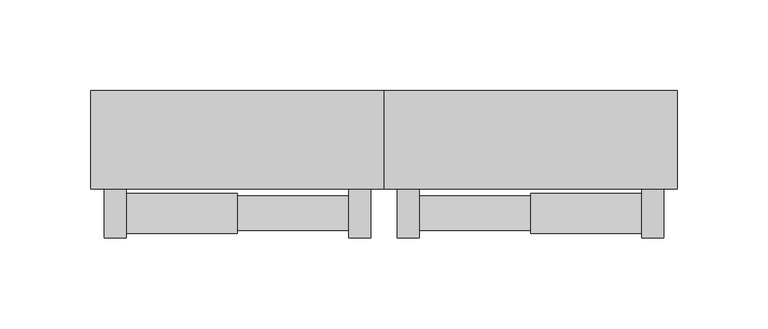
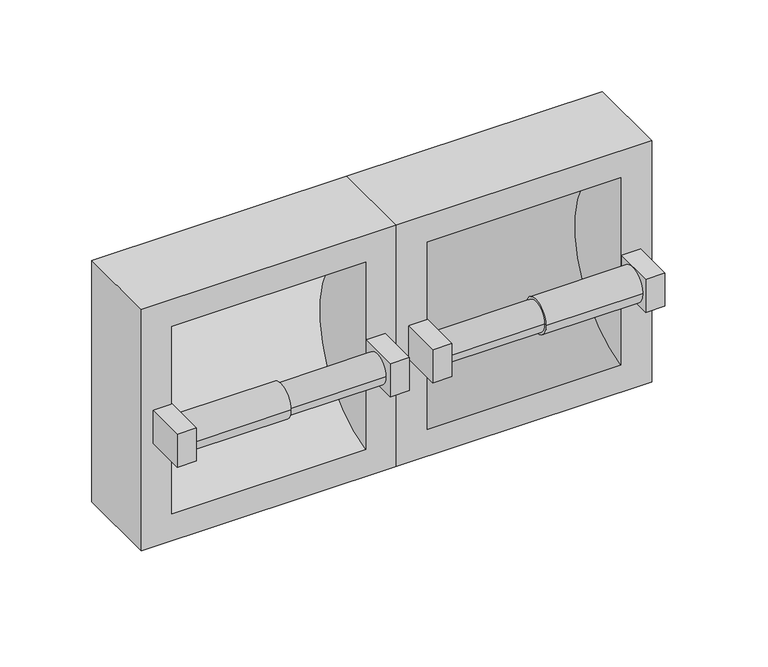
"""IFC4 building model written with IfcOpenShell, lengths in millimetres: proxy geometry, Toilet Roll Dispenser_Metlam_Double_Surface Mounted : 322w x 83d x 161h (ML262SM_S)."""

import ifcopenshell
import ifcopenshell.guid

model = None  # the IFC model being written
_history = None  # IfcOwnerHistory: only IFC2X3 demands one
_inside = {}  # id of a spatial element -> (the spatial element, [elements in it])
_under = {}  # id of a project, library or spatial element -> (it, [spatial elements below it])
_declared = {}  # id of a project -> (the project, [libraries it declares])
_typed = {}  # id of a type object -> (the type object, [elements of that type])
_made_of = {}  # id of a material, layer set ... -> (it, [elements and type objects made of it])


def new_model(schema):
    """Start an empty IFC model of exactly this schema.

    Asked for "IFC4X3", IfcOpenShell would pick the latest addendum, in which some entities
    have other attributes; the version numbers below select the first issue.
    IFC2X3 requires an IfcOwnerHistory on every rooted entity: one is made here for all.
    """
    global model, _history
    if schema == "IFC4X3":
        model = ifcopenshell.file(schema_version=(4, 3, 0, 0))
    else:
        model = ifcopenshell.file(schema=schema)
    _inside.clear()
    _under.clear()
    _declared.clear()
    _typed.clear()
    _made_of.clear()
    _history = None
    if model.schema == "IFC2X3":
        org = make("IfcOrganization", Name="unknown")
        user = make(
            "IfcPersonAndOrganization",
            ThePerson=make("IfcPerson", FamilyName="unknown"),
            TheOrganization=org,
        )
        app = make(
            "IfcApplication",
            ApplicationDeveloper=org,
            Version="unknown",
            ApplicationFullName="unknown",
            ApplicationIdentifier="unknown",
        )
        _history = make(
            "IfcOwnerHistory",
            OwningUser=user,
            OwningApplication=app,
            ChangeAction="ADDED",
            CreationDate=0,
        )
    return model


def make(cls, **values):
    """One entity of the class cls with the attributes given. An attribute that is None is left unset."""
    return model.create_entity(
        cls, **{name: value for name, value in values.items() if value is not None}
    )


def rooted(cls, **values):
    """An entity with a GlobalId (a new one), such as an element, a storey or a relation."""
    return make(cls, GlobalId=ifcopenshell.guid.new(), OwnerHistory=_history, **values)


def si_unit(unit_type, name, prefix=None):
    """IfcSIUnit, for example si_unit("LENGTHUNIT", "METRE", prefix="MILLI")."""
    return make("IfcSIUnit", UnitType=unit_type, Prefix=prefix, Name=name)


def assignment(units):
    """IfcUnitAssignment: the units of a project."""
    return None if units is None else make("IfcUnitAssignment", Units=units)


def point(xyz):
    """IfcCartesianPoint."""
    return None if xyz is None else make("IfcCartesianPoint", Coordinates=xyz)


def direction(xyz):
    """IfcDirection."""
    return None if xyz is None else make("IfcDirection", DirectionRatios=xyz)


def frame(location, z_axis=None, x_axis=None):
    """IfcAxis2Placement3D, a coordinate frame: its origin and axes. An axis left out is left unset."""
    return make(
        "IfcAxis2Placement3D",
        Location=point(location),
        Axis=direction(z_axis),
        RefDirection=direction(x_axis),
    )


def origin():
    """The frame at (0, 0, 0) with its axes left unset."""
    return frame((0.0, 0.0, 0.0))


def place(relative_to, where):
    """IfcLocalPlacement: puts the frame where relative to a parent placement (None: the world)."""
    return make(
        "IfcLocalPlacement", PlacementRelTo=relative_to, RelativePlacement=where
    )


def context(
    kind, dimensions, precision=None, world=None, true_north=None, identifier=None
):
    """IfcGeometricRepresentationContext, for example the 3D "Model" context."""
    return make(
        "IfcGeometricRepresentationContext",
        ContextIdentifier=identifier,
        ContextType=kind,
        CoordinateSpaceDimension=dimensions,
        Precision=precision,
        WorldCoordinateSystem=world,
        TrueNorth=true_north,
    )


def project(units=None, contexts=None):
    """IfcProject with its units and contexts."""
    return rooted(
        "IfcProject",
        Name="project",
        RepresentationContexts=contexts,
        UnitsInContext=assignment(units),
    )


def spatial(cls, under=None, at=None, **own):
    """A site, building, storey or space (cls), placed at a placement, below another one or the project."""
    s = rooted(cls, ObjectPlacement=at, **own)
    if under is not None:
        _under.setdefault(under.id(), (under, []))[1].append(s)
    return s


def polyline(points):
    """IfcPolyline through the points."""
    return make("IfcPolyline", Points=[point(p) for p in points])


def circle_curve(where, radius):
    """IfcCircle in the frame where."""
    return make("IfcCircle", Position=where, Radius=radius)


def outline(outer, holes=None, kind="AREA"):
    """IfcArbitraryClosedProfileDef: a profile drawn as a closed curve; with holes, ...WithVoids."""
    if holes is None:
        return make("IfcArbitraryClosedProfileDef", ProfileType=kind, OuterCurve=outer)
    return make(
        "IfcArbitraryProfileDefWithVoids",
        ProfileType=kind,
        OuterCurve=outer,
        InnerCurves=holes,
    )


def extrude(swept, where, along, depth):
    """IfcExtrudedAreaSolid: the profile swept, set in the frame where, extruded along a direction by depth."""
    return make(
        "IfcExtrudedAreaSolid",
        SweptArea=swept,
        Position=where,
        ExtrudedDirection=direction(along),
        Depth=depth,
    )


def shape(context_of_items, identifier, shape_type, items):
    """IfcShapeRepresentation: the items that make up one representation, for example the "Body"."""
    return make(
        "IfcShapeRepresentation",
        ContextOfItems=context_of_items,
        RepresentationIdentifier=identifier,
        RepresentationType=shape_type,
        Items=items,
    )


def source(mapping_origin, context_of_items, identifier, shape_type, items):
    """IfcRepresentationMap: a shape defined once, which mapped items show again and again."""
    return make(
        "IfcRepresentationMap",
        MappingOrigin=mapping_origin,
        MappedRepresentation=shape(context_of_items, identifier, shape_type, items),
    )


def transform(
    local_origin,
    x_axis=None,
    y_axis=None,
    z_axis=None,
    scale=None,
    scale2=None,
    scale3=None,
    uniform=True,
):
    """IfcCartesianTransformationOperator3D, or its non-uniform kind. x_axis, y_axis, z_axis: its Axis1, 2, 3."""
    if uniform:
        return make(
            "IfcCartesianTransformationOperator3D",
            Axis1=direction(x_axis),
            Axis2=direction(y_axis),
            LocalOrigin=point(local_origin),
            Scale=scale,
            Axis3=direction(z_axis),
        )
    return make(
        "IfcCartesianTransformationOperator3DnonUniform",
        Axis1=direction(x_axis),
        Axis2=direction(y_axis),
        LocalOrigin=point(local_origin),
        Scale=scale,
        Axis3=direction(z_axis),
        Scale2=scale2,
        Scale3=scale3,
    )


def mapped(mapping_source, mapping_target):
    """IfcMappedItem: shows the shape of a source again, moved by a transform."""
    return make(
        "IfcMappedItem", MappingSource=mapping_source, MappingTarget=mapping_target
    )


def made_of(thing, what):
    """Note that an element or type object is made of a material, layer set ...; save() writes the relation."""
    if what is not None:
        _made_of.setdefault(what.id(), (what, []))[1].append(thing)
    return thing


def element(
    cls,
    number,
    at=None,
    inside=None,
    cuts=None,
    type_object=None,
    material=None,
    context=None,
    identifier="Body",
    shape_type=None,
    held_by="IfcProductDefinitionShape",
    body=None,
    shapes=None,
    **own,
):
    """One element of the class cls, such as IfcWall. Its Tag is "e" and its number.

    at: its placement. inside: the storey or other place that contains it. cuts: it is an
    opening in that element (IfcRelVoidsElement). A single representation is given by context,
    identifier, shape_type and body (its items); several are given by shapes. held_by: the class
    of the entity that holds the representations. save() writes the other relations.
    """
    e = rooted(cls, Tag="e%d" % number, ObjectPlacement=at, **own)
    if body is not None:
        shapes = [shape(context, identifier, shape_type, body)]
    if shapes is not None:
        e.Representation = make(held_by, Representations=shapes)
    if inside is not None:
        _inside.setdefault(inside.id(), (inside, []))[1].append(e)
    if cuts is not None:
        rooted(
            "IfcRelVoidsElement", RelatingBuildingElement=cuts, RelatedOpeningElement=e
        )
    if type_object is not None:
        _typed.setdefault(type_object.id(), (type_object, []))[1].append(e)
    return made_of(e, material)


def aggregate(whole, parts):
    """IfcRelAggregates: a whole, such as a stair, and the parts it consists of."""
    return rooted("IfcRelAggregates", RelatingObject=whole, RelatedObjects=parts)


def save(model, path):
    """Write the relations noted so far, then the file.

    IfcRelAggregates (storeys below a building ...), IfcRelContainedInSpatialStructure (elements
    in a storey), IfcRelDefinesByType, IfcRelAssociatesMaterial and IfcRelDeclares: one each for
    every whole, place, type object, material and project.
    """
    for whole, parts in _under.values():
        aggregate(whole, parts)
    for where, things in _inside.values():
        rooted(
            "IfcRelContainedInSpatialStructure",
            RelatedElements=things,
            RelatingStructure=where,
        )
    for kind, things in _typed.values():
        rooted("IfcRelDefinesByType", RelatedObjects=things, RelatingType=kind)
    for what, things in _made_of.values():
        rooted("IfcRelAssociatesMaterial", RelatedObjects=things, RelatingMaterial=what)
    for by, libraries in _declared.values():
        rooted("IfcRelDeclares", RelatingContext=by, RelatedDefinitions=libraries)
    model.write(path)


def plane_surface(at):
    """IfcPlane: the flat surface through the origin of the frame at, square to its z axis."""
    return make("IfcPlane", Position=at)


def cylinder_surface(at, radius):
    """IfcCylindricalSurface: all points at the distance radius from the z axis of the frame at."""
    return make("IfcCylindricalSurface", Position=at, Radius=radius)


def revolved_surface(curve, axis_point, axis_direction):
    """IfcSurfaceOfRevolution: the curve turned about the line through axis_point along axis_direction."""
    return make(
        "IfcSurfaceOfRevolution",
        SweptCurve=make("IfcArbitraryOpenProfileDef", ProfileType="CURVE", Curve=curve),
        AxisPosition=make("IfcAxis1Placement", Location=point(axis_point), Axis=direction(axis_direction)),
    )


def advanced_brep(points, edges, surfaces, faces):
    """IfcAdvancedBrep: a solid bounded by faces that lie on surfaces and meet in shared edges.

    An edge is (start, end): straight between two places in points (the first is 0);
    or (start, end, curve); or (start, end, curve, False) where it runs against its curve.
    A face is (place in surfaces, loops), or (place, loops, False) where it looks against
    its surface's normal. A loop lists edges by number (the first is 1), with a minus sign
    where the edge is run from its end to its start. The first loop is the outer one.
    """
    corners = [point(p) for p in points]
    vertices = [make("IfcVertexPoint", VertexGeometry=c) for c in corners]
    made = []
    for start, end, *more in edges:
        made.append(
            make(
                "IfcEdgeCurve",
                EdgeStart=vertices[start],
                EdgeEnd=vertices[end],
                EdgeGeometry=more[0] if more else make("IfcPolyline", Points=[corners[start], corners[end]]),
                SameSense=more[1] if len(more) > 1 else True,
            )
        )
    hull = []
    for where, loops, *sense in faces:
        bounds = []
        for j, loop in enumerate(loops):
            ring = [make("IfcOrientedEdge", EdgeElement=made[abs(k) - 1], Orientation=k > 0) for k in loop]
            bounds.append(
                make(
                    "IfcFaceOuterBound" if j == 0 else "IfcFaceBound",
                    Bound=make("IfcEdgeLoop", EdgeList=ring),
                    Orientation=True,
                )
            )
        hull.append(make("IfcAdvancedFace", Bounds=bounds, FaceSurface=surfaces[where], SameSense=sense[0] if sense else True))
    return make("IfcAdvancedBrep", Outer=make("IfcClosedShell", CfsFaces=hull))


def specialty_equipment_26288f8f(model_context):
    return source(origin(), model_context, "Body", "SolidModel", [
        advanced_brep(
        [(0.0, -54.0, 665.5), (0.0, -54.0, 504.5), (161.0, -54.0, 504.5), (161.0, -54.0, 665.5), (19.3853536, -54.0, 522.5175691), (19.3853536, -54.0, 647.4824309), (141.6146464, -54.0, 647.4824309), (141.6146464, -54.0, 522.5175691), (0.0, 0.0, 665.5), (161.0, 0.0, 665.5), (161.0, 0.0, 504.5), (0.0, 0.0, 504.5)],
        [
            (0, 1),
            (1, 2),
            (2, 3),
            (3, 0),
            (4, 5),
            (5, 6),
            (6, 7),
            (7, 4),
            (8, 9),
            (9, 10),
            (10, 11),
            (11, 8),
            (3, 9),
            (8, 0),
            (2, 10),
            (1, 11),
            (4, 5, circle_curve(frame((19.3853536, -67.8544514, 585.0), z_axis=(1.0, 0.0, 0.0), x_axis=(0.0, 1.0, 0.0)), 64.0)),
            (6, 7, circle_curve(frame((141.6146464, -67.8544514, 585.0), z_axis=(-1.0, 0.0, 0.0), x_axis=(0.0, 1.0, 0.0)), 64.0)),
        ],
        [
            plane_surface(frame((0.0, -54.0, 665.5), z_axis=(0.0, -1.0, 0.0), x_axis=(0.0, 0.0, -1.0))),
            plane_surface(frame((0.0, 0.0, 665.5), z_axis=(0.0, 1.0, 0.0), x_axis=(0.0, 0.0, 1.0))),
            plane_surface(frame((161.0, -54.0, 665.5), z_axis=(0.0, 0.0, 1.0), x_axis=(0.0, 1.0, 0.0))),
            plane_surface(frame((161.0, -54.0, 504.5), z_axis=(1.0, 0.0, 0.0), x_axis=(0.0, 1.0, 0.0))),
            plane_surface(frame((0.0, -54.0, 504.5), z_axis=(0.0, 0.0, -1.0), x_axis=(0.0, 1.0, 0.0))),
            plane_surface(frame((0.0, -54.0, 665.5), z_axis=(-1.0, 0.0, 0.0), x_axis=(0.0, 1.0, 0.0))),
            plane_surface(frame((19.3853536, -3.8544514, 585.0), z_axis=(1.0, 0.0, 0.0), x_axis=(0.0, 0.0, -1.0))),
            plane_surface(frame((141.6146464, -3.8544514, 585.0), z_axis=(-1.0, 0.0, 0.0), x_axis=(0.0, 0.0, 1.0))),
            revolved_surface(polyline([(19.385353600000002, -3.854451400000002, 585.0), (141.6146464, -3.854451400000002, 585.0)]), (141.6146464, -67.8544514, 585.0), (-1.0, 0.0, 0.0)),
        ],
        [
            (0, [[1, 2, 3, 4], [5, 6, 7, 8]]),
            (1, [[9, 10, 11, 12]]),
            (2, [[-4, 13, -9, 14]]),
            (3, [[-3, 15, -10, -13]]),
            (4, [[-2, 16, -11, -15]]),
            (5, [[-1, -14, -12, -16]]),
            (6, [[17, -5]]),
            (7, [[18, -7]]),
            (8, [[-17, -8, -18, -6]]),
        ],
    ),
        advanced_brep(
        [(0.0, -54.0, 665.5), (-161.0, -54.0, 665.5), (-161.0, -54.0, 504.5), (0.0, -54.0, 504.5), (-19.3853536, -54.0, 647.4824309), (-19.3853536, -54.0, 522.5175691), (-141.6146464, -54.0, 522.5175691), (-141.6146464, -54.0, 647.4824309), (0.0, 0.0, 665.5), (0.0, 0.0, 504.5), (-161.0, 0.0, 504.5), (-161.0, 0.0, 665.5)],
        [
            (0, 1),
            (1, 2),
            (2, 3),
            (3, 0),
            (4, 5),
            (5, 6),
            (6, 7),
            (7, 4),
            (8, 9),
            (9, 10),
            (10, 11),
            (11, 8),
            (0, 8),
            (11, 1),
            (10, 2),
            (9, 3),
            (4, 5, circle_curve(frame((-19.3853536, -67.8544514, 585.0), z_axis=(-1.0, 0.0, 0.0), x_axis=(0.0, 1.0, 0.0)), 64.0)),
            (6, 7, circle_curve(frame((-141.6146464, -67.8544514, 585.0), z_axis=(1.0, 0.0, 0.0), x_axis=(0.0, 1.0, 0.0)), 64.0)),
        ],
        [
            plane_surface(frame((-161.0, -54.0, 665.5), z_axis=(0.0, -1.0, 0.0), x_axis=(-1.0, 0.0, 0.0))),
            plane_surface(frame((-161.0, 0.0, 665.5), z_axis=(0.0, 1.0, 0.0), x_axis=(1.0, 0.0, 0.0))),
            plane_surface(frame((0.0, -54.0, 665.5), z_axis=(0.0, 0.0, 1.0), x_axis=(0.0, 1.0, 0.0))),
            plane_surface(frame((-161.0, -54.0, 665.5), z_axis=(-1.0, 0.0, 0.0), x_axis=(0.0, 1.0, 0.0))),
            plane_surface(frame((-161.0, -54.0, 504.5), z_axis=(0.0, 0.0, -1.0), x_axis=(0.0, 1.0, 0.0))),
            plane_surface(frame((0.0, -54.0, 504.5), z_axis=(1.0, 0.0, 0.0), x_axis=(0.0, 1.0, 0.0))),
            plane_surface(frame((-19.3853536, -54.0, 522.5175691), z_axis=(-1.0, 0.0, 0.0), x_axis=(0.0, 0.0, -1.0))),
            plane_surface(frame((-141.6146464, -54.0, 522.5175691), z_axis=(1.0, 0.0, 0.0), x_axis=(0.0, 0.0, 1.0))),
            revolved_surface(polyline([(-19.385353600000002, -3.854451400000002, 585.0), (-141.6146464, -3.854451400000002, 585.0)]), (-141.6146464, -67.8544514, 585.0), (1.0, 0.0, 0.0)),
        ],
        [
            (0, [[1, 2, 3, 4], [5, 6, 7, 8]]),
            (1, [[9, 10, 11, 12]]),
            (2, [[-1, 13, -12, 14]]),
            (3, [[-2, -14, -11, 15]]),
            (4, [[-3, -15, -10, 16]]),
            (5, [[-4, -16, -9, -13]]),
            (6, [[17, -5]]),
            (7, [[18, -7]]),
            (8, [[-17, -8, -18, -6]]),
        ],
    ),
        extrude(outline(polyline([(153.6248355, -54.0), (153.6248355, -81.0), (141.6146464, -81.0), (141.6146464, -54.0), (153.6248355, -54.0)])), frame((0.0, 0.0, 574.0), z_axis=(0.0, 0.0, 1.0), x_axis=(1.0, 0.0, 0.0)), (0.0, 0.0, 1.0), 22.0),
        extrude(outline(polyline([(7.3751645, -81.0), (7.3751645, -54.0), (19.3853536, -54.0), (19.3853536, -81.0), (7.3751645, -81.0)])), frame((0.0, 0.0, 574.0), z_axis=(0.0, 0.0, 1.0), x_axis=(1.0, 0.0, 0.0)), (0.0, 0.0, 1.0), 22.0),
        advanced_brep(
        [(141.6146464, -67.3201367, 585.0), (141.6146464, -78.3201367, 585.0), (141.6146464, -56.3201367, 585.0), (80.5, -78.3201367, 585.0), (80.5, -56.3201367, 585.0), (80.5, -76.8201367, 585.0), (80.5, -57.8201367, 585.0), (19.3853536, -76.8201367, 585.0), (19.3853536, -57.8201367, 585.0), (19.3853536, -67.3201367, 585.0)],
        [
            (0, 1),
            (1, 2, circle_curve(frame((141.6146464, -67.3201367, 585.0), z_axis=(1.0, 0.0, 0.0), x_axis=(0.0, -1.0, 0.0)), 11.0)),
            (2, 0),
            (2, 1, circle_curve(frame((141.6146464, -67.3201367, 585.0), z_axis=(1.0, 0.0, 0.0), x_axis=(0.0, -1.0, 0.0)), 11.0)),
            (1, 3),
            (3, 4, circle_curve(frame((80.5, -67.3201367, 585.0), z_axis=(1.0, 0.0, 0.0), x_axis=(0.0, -1.0, 0.0)), 11.0)),
            (4, 2),
            (4, 3, circle_curve(frame((80.5, -67.3201367, 585.0), z_axis=(1.0, 0.0, 0.0), x_axis=(0.0, -1.0, 0.0)), 11.0)),
            (3, 5),
            (5, 6, circle_curve(frame((80.5, -67.3201367, 585.0), z_axis=(1.0, 0.0, 0.0), x_axis=(0.0, -1.0, 0.0)), 9.5)),
            (6, 4),
            (6, 5, circle_curve(frame((80.5, -67.3201367, 585.0), z_axis=(1.0, 0.0, 0.0), x_axis=(0.0, -1.0, 0.0)), 9.5)),
            (5, 7),
            (7, 8, circle_curve(frame((19.3853536, -67.3201367, 585.0), z_axis=(1.0, 0.0, 0.0), x_axis=(0.0, -1.0, 0.0)), 9.5)),
            (8, 6),
            (8, 7, circle_curve(frame((19.3853536, -67.3201367, 585.0), z_axis=(1.0, 0.0, 0.0), x_axis=(0.0, -1.0, 0.0)), 9.5)),
            (7, 9),
            (9, 8),
        ],
        [
            plane_surface(frame((141.6146464, -67.3201367, 585.0), z_axis=(1.0, 0.0, 0.0), x_axis=(0.0, -1.0, 0.0))),
            cylinder_surface(frame((98.0, -67.3201367, 585.0), z_axis=(1.0, 0.0, 0.0), x_axis=(0.0, -1.0, 0.0)), 11.0),
            plane_surface(frame((80.5, -67.3201367, 585.0), z_axis=(-1.0, 0.0, 0.0), x_axis=(0.0, -1.0, 0.0))),
            cylinder_surface(frame((98.0, -67.3201367, 585.0), z_axis=(1.0, 0.0, 0.0), x_axis=(0.0, -1.0, 0.0)), 9.5),
            plane_surface(frame((19.3853536, -67.3201367, 585.0), z_axis=(-1.0, 0.0, 0.0), x_axis=(0.0, -1.0, 0.0))),
        ],
        [
            (0, [[1, 2, 3]]),
            (0, [[-3, 4, -1]]),
            (1, [[-2, 5, 6, 7]]),
            (1, [[-4, -7, 8, -5]]),
            (2, [[-6, 9, 10, 11]]),
            (2, [[-8, -11, 12, -9]]),
            (3, [[-10, 13, 14, 15]]),
            (3, [[-12, -15, 16, -13]]),
            (4, [[-14, 17, 18]]),
            (4, [[-16, -18, -17]]),
        ],
    ),
        extrude(outline(polyline([(-153.6248355, -81.0), (-153.6248355, -54.0), (-141.6146464, -54.0), (-141.6146464, -81.0), (-153.6248355, -81.0)])), frame((0.0, 0.0, 574.0), z_axis=(0.0, 0.0, 1.0), x_axis=(1.0, 0.0, 0.0)), (0.0, 0.0, 1.0), 22.0),
        extrude(outline(polyline([(-7.3751645, -54.0), (-7.3751645, -81.0), (-19.3853536, -81.0), (-19.3853536, -54.0), (-7.3751645, -54.0)])), frame((0.0, 0.0, 574.0), z_axis=(0.0, 0.0, 1.0), x_axis=(1.0, 0.0, 0.0)), (0.0, 0.0, 1.0), 22.0),
        advanced_brep(
        [(-141.6146464, -56.3201367, 585.0), (-141.6146464, -78.3201367, 585.0), (-141.6146464, -67.3201367, 585.0), (-80.5, -56.3201367, 585.0), (-80.5, -78.3201367, 585.0), (-80.5, -57.8201367, 585.0), (-80.5, -76.8201367, 585.0), (-19.3853536, -57.8201367, 585.0), (-19.3853536, -76.8201367, 585.0), (-19.3853536, -67.3201367, 585.0)],
        [
            (0, 1, circle_curve(frame((-141.6146464, -67.3201367, 585.0), z_axis=(-1.0, 0.0, 0.0), x_axis=(0.0, -1.0, 0.0)), 11.0)),
            (1, 2),
            (2, 0),
            (1, 0, circle_curve(frame((-141.6146464, -67.3201367, 585.0), z_axis=(-1.0, 0.0, 0.0), x_axis=(0.0, -1.0, 0.0)), 11.0)),
            (3, 4, circle_curve(frame((-80.5, -67.3201367, 585.0), z_axis=(-1.0, 0.0, 0.0), x_axis=(0.0, -1.0, 0.0)), 11.0)),
            (4, 1),
            (0, 3),
            (4, 3, circle_curve(frame((-80.5, -67.3201367, 585.0), z_axis=(-1.0, 0.0, 0.0), x_axis=(0.0, -1.0, 0.0)), 11.0)),
            (5, 6, circle_curve(frame((-80.5, -67.3201367, 585.0), z_axis=(-1.0, 0.0, 0.0), x_axis=(0.0, -1.0, 0.0)), 9.5)),
            (6, 4),
            (3, 5),
            (6, 5, circle_curve(frame((-80.5, -67.3201367, 585.0), z_axis=(-1.0, 0.0, 0.0), x_axis=(0.0, -1.0, 0.0)), 9.5)),
            (7, 8, circle_curve(frame((-19.3853536, -67.3201367, 585.0), z_axis=(-1.0, 0.0, 0.0), x_axis=(0.0, -1.0, 0.0)), 9.5)),
            (8, 6),
            (5, 7),
            (8, 7, circle_curve(frame((-19.3853536, -67.3201367, 585.0), z_axis=(-1.0, 0.0, 0.0), x_axis=(0.0, -1.0, 0.0)), 9.5)),
            (9, 8),
            (7, 9),
        ],
        [
            plane_surface(frame((-141.6146464, -67.3201367, 585.0), z_axis=(-1.0, 0.0, 0.0), x_axis=(0.0, -1.0, 0.0))),
            cylinder_surface(frame((-98.0, -67.3201367, 585.0), z_axis=(1.0, 0.0, 0.0), x_axis=(0.0, -1.0, 0.0)), 11.0),
            plane_surface(frame((-80.5, -67.3201367, 585.0), z_axis=(1.0, 0.0, 0.0), x_axis=(0.0, -1.0, 0.0))),
            cylinder_surface(frame((-98.0, -67.3201367, 585.0), z_axis=(1.0, 0.0, 0.0), x_axis=(0.0, -1.0, 0.0)), 9.5),
            plane_surface(frame((-19.3853536, -67.3201367, 585.0), z_axis=(1.0, 0.0, 0.0), x_axis=(0.0, -1.0, 0.0))),
        ],
        [
            (0, [[1, 2, 3]]),
            (0, [[4, -3, -2]]),
            (1, [[5, 6, -1, 7]]),
            (1, [[8, -7, -4, -6]]),
            (2, [[9, 10, -5, 11]]),
            (2, [[12, -11, -8, -10]]),
            (3, [[13, 14, -9, 15]]),
            (3, [[16, -15, -12, -14]]),
            (4, [[17, -13, 18]]),
            (4, [[-18, -16, -17]]),
        ],
    ),
    ])


if __name__ == "__main__":
    model = new_model("IFC4")
    model_context = context("Model", 3, world=origin())
    ifc_project = project(units=[si_unit("LENGTHUNIT", "METRE", prefix="MILLI")], contexts=[model_context])
    site = spatial("IfcSite", under=ifc_project)
    building = spatial("IfcBuilding", under=site)
    placement = place(None, origin())
    specialty_equipment_shape = specialty_equipment_26288f8f(model_context)
    element("IfcBuildingElementProxy", 1, Name="Toilet Roll Dispenser_Metlam_Double_Surface Mounted : 322w x 83d x 161h (ML262SM_S)", ObjectType="Toilet Roll Dispenser_Metlam_Double_Surface Mounted : 322w x 83d x 161h (ML262SM_S)", at=placement, inside=building, context=model_context, shape_type="MappedRepresentation", body=[
        mapped(specialty_equipment_shape, transform((0.0, 0.0, 0.0), x_axis=(1.0, 0.0, 0.0), y_axis=(0.0, 1.0, 0.0), z_axis=(0.0, 0.0, 1.0))),
    ])
    save(model, "model.ifc")
